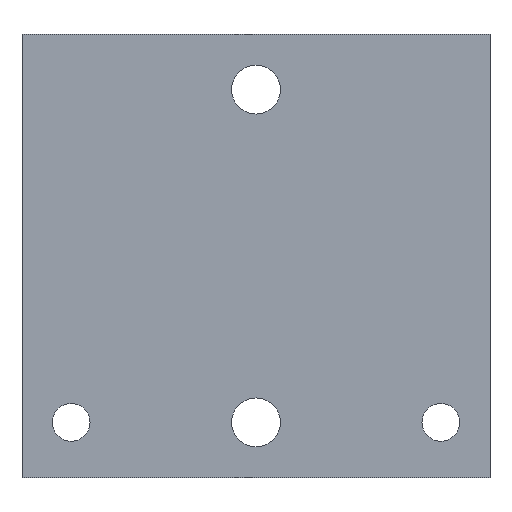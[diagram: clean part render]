
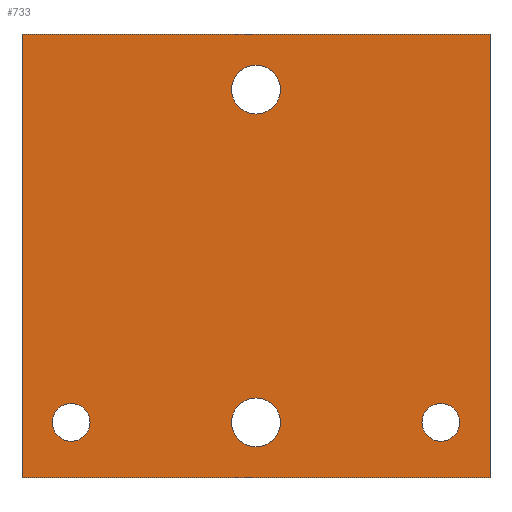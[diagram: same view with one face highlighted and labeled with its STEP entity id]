
A CAD part, front view. The second image highlights one B-rep face of the part: STEP entity #733.
In plain terms, the highlighted planar face has unit normal (0, -1, 0).
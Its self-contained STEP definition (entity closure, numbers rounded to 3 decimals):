
#13=DIRECTION('',(0.,0.,1.));
#14=VECTOR('',#13,60.);
#15=CARTESIAN_POINT('',(31.65,0.,-30.));
#16=LINE('',#15,#14);
#17=DIRECTION('',(-1.,0.,0.));
#18=VECTOR('',#17,63.3);
#19=CARTESIAN_POINT('',(31.65,0.,30.));
#20=LINE('',#19,#18);
#21=DIRECTION('',(-1.,0.,0.));
#22=VECTOR('',#21,63.3);
#23=CARTESIAN_POINT('',(31.65,0.,-30.));
#24=LINE('',#23,#22);
#25=CARTESIAN_POINT('',(0.,0.,-22.5));
#26=DIRECTION('',(0.,1.,0.));
#27=DIRECTION('',(1.,0.,0.));
#28=AXIS2_PLACEMENT_3D('',#25,#26,#27);
#30=CARTESIAN_POINT('',(0.,0.,-22.5));
#31=DIRECTION('',(0.,1.,0.));
#32=DIRECTION('',(-1.,0.,0.));
#33=AXIS2_PLACEMENT_3D('',#30,#31,#32);
#35=CARTESIAN_POINT('',(0.,0.,22.5));
#36=DIRECTION('',(0.,1.,0.));
#37=DIRECTION('',(1.,0.,0.));
#38=AXIS2_PLACEMENT_3D('',#35,#36,#37);
#40=CARTESIAN_POINT('',(0.,0.,22.5));
#41=DIRECTION('',(0.,1.,0.));
#42=DIRECTION('',(-1.,0.,0.));
#43=AXIS2_PLACEMENT_3D('',#40,#41,#42);
#45=CARTESIAN_POINT('',(-25.,0.,-22.5));
#46=DIRECTION('',(0.,-1.,0.));
#47=DIRECTION('',(1.,0.,0.));
#48=AXIS2_PLACEMENT_3D('',#45,#46,#47);
#50=CARTESIAN_POINT('',(-25.,0.,-22.5));
#51=DIRECTION('',(0.,-1.,0.));
#52=DIRECTION('',(-1.,0.,0.));
#53=AXIS2_PLACEMENT_3D('',#50,#51,#52);
#55=CARTESIAN_POINT('',(25.,0.,-22.5));
#56=DIRECTION('',(0.,-1.,0.));
#57=DIRECTION('',(1.,0.,0.));
#58=AXIS2_PLACEMENT_3D('',#55,#56,#57);
#60=CARTESIAN_POINT('',(25.,0.,-22.5));
#61=DIRECTION('',(0.,-1.,0.));
#62=DIRECTION('',(-1.,0.,0.));
#63=AXIS2_PLACEMENT_3D('',#60,#61,#62);
#213=DIRECTION('',(0.,0.,1.));
#214=VECTOR('',#213,60.);
#215=CARTESIAN_POINT('',(-31.65,0.,-30.));
#216=LINE('',#215,#214);
#505=CARTESIAN_POINT('',(31.65,0.,30.));
#507=VERTEX_POINT('',#505);
#511=CARTESIAN_POINT('',(31.65,0.,-30.));
#512=VERTEX_POINT('',#511);
#513=CARTESIAN_POINT('',(-31.65,0.,30.));
#515=VERTEX_POINT('',#513);
#519=CARTESIAN_POINT('',(-31.65,0.,-30.));
#520=VERTEX_POINT('',#519);
#589=CARTESIAN_POINT('',(-22.445,0.,-22.5));
#590=CARTESIAN_POINT('',(-27.555,0.,-22.5));
#591=VERTEX_POINT('',#589);
#592=VERTEX_POINT('',#590);
#597=CARTESIAN_POINT('',(27.555,0.,-22.5));
#598=CARTESIAN_POINT('',(22.445,0.,-22.5));
#599=VERTEX_POINT('',#597);
#600=VERTEX_POINT('',#598);
#613=CARTESIAN_POINT('',(3.3,0.,-22.5));
#614=CARTESIAN_POINT('',(-3.3,0.,-22.5));
#615=VERTEX_POINT('',#613);
#616=VERTEX_POINT('',#614);
#629=CARTESIAN_POINT('',(3.3,0.,22.5));
#630=CARTESIAN_POINT('',(-3.3,0.,22.5));
#631=VERTEX_POINT('',#629);
#632=VERTEX_POINT('',#630);
#696=CARTESIAN_POINT('',(31.65,0.,-30.));
#697=DIRECTION('',(0.,-1.,0.));
#698=DIRECTION('',(0.,0.,1.));
#699=AXIS2_PLACEMENT_3D('',#696,#697,#698);
#700=PLANE('',#699);
#701=ORIENTED_EDGE('',*,*,#676,.F.);
#703=ORIENTED_EDGE('',*,*,#702,.T.);
#705=ORIENTED_EDGE('',*,*,#704,.T.);
#706=ORIENTED_EDGE('',*,*,#687,.F.);
#707=EDGE_LOOP('',(#701,#703,#705,#706));
#708=FACE_OUTER_BOUND('',#707,.F.);
#710=ORIENTED_EDGE('',*,*,#709,.F.);
#712=ORIENTED_EDGE('',*,*,#711,.F.);
#713=EDGE_LOOP('',(#710,#712));
#714=FACE_BOUND('',#713,.F.);
#716=ORIENTED_EDGE('',*,*,#715,.F.);
#718=ORIENTED_EDGE('',*,*,#717,.F.);
#719=EDGE_LOOP('',(#716,#718));
#720=FACE_BOUND('',#719,.F.);
#722=ORIENTED_EDGE('',*,*,#721,.T.);
#724=ORIENTED_EDGE('',*,*,#723,.T.);
#725=EDGE_LOOP('',(#722,#724));
#726=FACE_BOUND('',#725,.F.);
#728=ORIENTED_EDGE('',*,*,#727,.T.);
#730=ORIENTED_EDGE('',*,*,#729,.T.);
#731=EDGE_LOOP('',(#728,#730));
#732=FACE_BOUND('',#731,.F.);
#733=ADVANCED_FACE('',(#708,#714,#720,#726,#732),#700,.T.);
#29=CIRCLE('',#28,3.3);
#34=CIRCLE('',#33,3.3);
#39=CIRCLE('',#38,3.3);
#44=CIRCLE('',#43,3.3);
#49=CIRCLE('',#48,2.555);
#54=CIRCLE('',#53,2.555);
#59=CIRCLE('',#58,2.555);
#64=CIRCLE('',#63,2.555);
#676=EDGE_CURVE('',#512,#507,#16,.T.);
#687=EDGE_CURVE('',#507,#515,#20,.T.);
#702=EDGE_CURVE('',#512,#520,#24,.T.);
#704=EDGE_CURVE('',#520,#515,#216,.T.);
#709=EDGE_CURVE('',#615,#616,#29,.T.);
#711=EDGE_CURVE('',#616,#615,#34,.T.);
#715=EDGE_CURVE('',#631,#632,#39,.T.);
#717=EDGE_CURVE('',#632,#631,#44,.T.);
#721=EDGE_CURVE('',#591,#592,#49,.T.);
#723=EDGE_CURVE('',#592,#591,#54,.T.);
#727=EDGE_CURVE('',#599,#600,#59,.T.);
#729=EDGE_CURVE('',#600,#599,#64,.T.);
